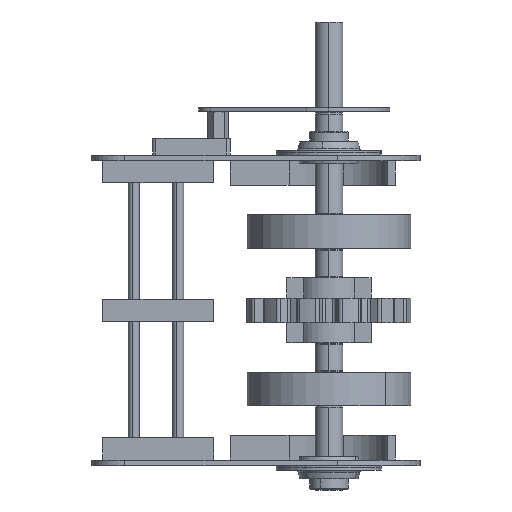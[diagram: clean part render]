
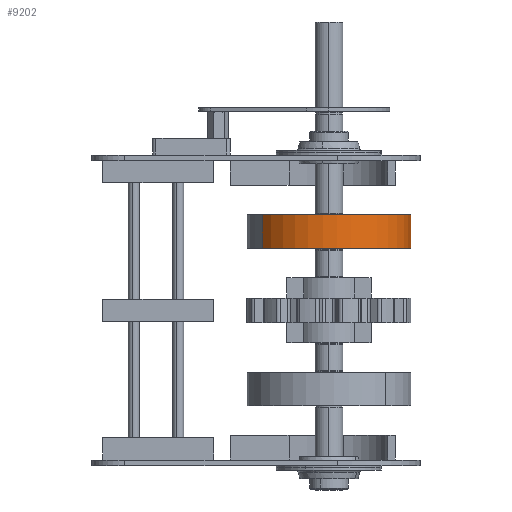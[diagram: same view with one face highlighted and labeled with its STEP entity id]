
A CAD part, front view. The second image highlights one B-rep face of the part: STEP entity #9202.
In plain terms, the highlighted cylindrical face has radius 74 mm (diameter 148 mm), a partial arc.
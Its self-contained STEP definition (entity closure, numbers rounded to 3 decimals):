
#1868 = EDGE_CURVE ( 'NONE', #18515, #18585, #10114, .T. ) ;
#1869 = EDGE_CURVE ( 'NONE', #18254, #18585, #10765, .T. ) ;
#1870 = EDGE_CURVE ( 'NONE', #18433, #18254, #10120, .T. ) ;
#1871 = EDGE_CURVE ( 'NONE', #18433, #18515, #10762, .T. ) ;
#2382 = DIRECTION ( 'NONE',  ( 0., 0., -1. ) ) ;
#2384 = DIRECTION ( 'NONE',  ( 0., -1., 0. ) ) ;
#2386 = CARTESIAN_POINT ( 'NONE',  ( 0., 30., 0. ) ) ;
#5200 = CARTESIAN_POINT ( 'NONE',  ( 0., 0., 74. ) ) ;
#5337 = CARTESIAN_POINT ( 'NONE',  ( 0., 30., 74. ) ) ;
#5397 = CARTESIAN_POINT ( 'NONE',  ( 0., 30., -74. ) ) ;
#5447 = CARTESIAN_POINT ( 'NONE',  ( 0., 0., -74. ) ) ;
#8136 = AXIS2_PLACEMENT_3D ( 'NONE', #11618, #11509, #11213 ) ;
#8137 = AXIS2_PLACEMENT_3D ( 'NONE', #11564, #11784, #11556 ) ;
#8394 = AXIS2_PLACEMENT_3D ( 'NONE', #2386, #2384, #2382 ) ;
#9202 = ADVANCED_FACE ( 'NONE', ( #9918 ), #9909, .T. ) ;
#9909 = CYLINDRICAL_SURFACE ( 'NONE', #8394, 74. ) ;
#9918 = FACE_OUTER_BOUND ( 'NONE', #14030, .T. ) ;
#10114 = LINE ( 'NONE', #11506, #10764 ) ;
#10120 = LINE ( 'NONE', #11619, #10761 ) ;
#10761 = VECTOR ( 'NONE', #11575, 1000. ) ;
#10762 = CIRCLE ( 'NONE', #8137, 74. ) ;
#10764 = VECTOR ( 'NONE', #11599, 1000. ) ;
#10765 = CIRCLE ( 'NONE', #8136, 74. ) ;
#11213 = DIRECTION ( 'NONE',  ( 0., 0., 1. ) ) ;
#11506 = CARTESIAN_POINT ( 'NONE',  ( 0., 30., -74. ) ) ;
#11509 = DIRECTION ( 'NONE',  ( 0., 1., 0. ) ) ;
#11556 = DIRECTION ( 'NONE',  ( 0., 0., 1. ) ) ;
#11564 = CARTESIAN_POINT ( 'NONE',  ( 0., 30., 0. ) ) ;
#11575 = DIRECTION ( 'NONE',  ( 0., -1., 0. ) ) ;
#11599 = DIRECTION ( 'NONE',  ( 0., -1., 0. ) ) ;
#11618 = CARTESIAN_POINT ( 'NONE',  ( 0., 0., 0. ) ) ;
#11619 = CARTESIAN_POINT ( 'NONE',  ( 0., 30., 74. ) ) ;
#11784 = DIRECTION ( 'NONE',  ( 0., 1., 0. ) ) ;
#13479 = ORIENTED_EDGE ( 'NONE', *, *, #1868, .F. ) ;
#13480 = ORIENTED_EDGE ( 'NONE', *, *, #1869, .T. ) ;
#13481 = ORIENTED_EDGE ( 'NONE', *, *, #1870, .T. ) ;
#13482 = ORIENTED_EDGE ( 'NONE', *, *, #1871, .F. ) ;
#14030 = EDGE_LOOP ( 'NONE', ( #13482, #13481, #13480, #13479 ) ) ;
#18254 = VERTEX_POINT ( 'NONE', #5200 ) ;
#18433 = VERTEX_POINT ( 'NONE', #5337 ) ;
#18515 = VERTEX_POINT ( 'NONE', #5397 ) ;
#18585 = VERTEX_POINT ( 'NONE', #5447 ) ;
